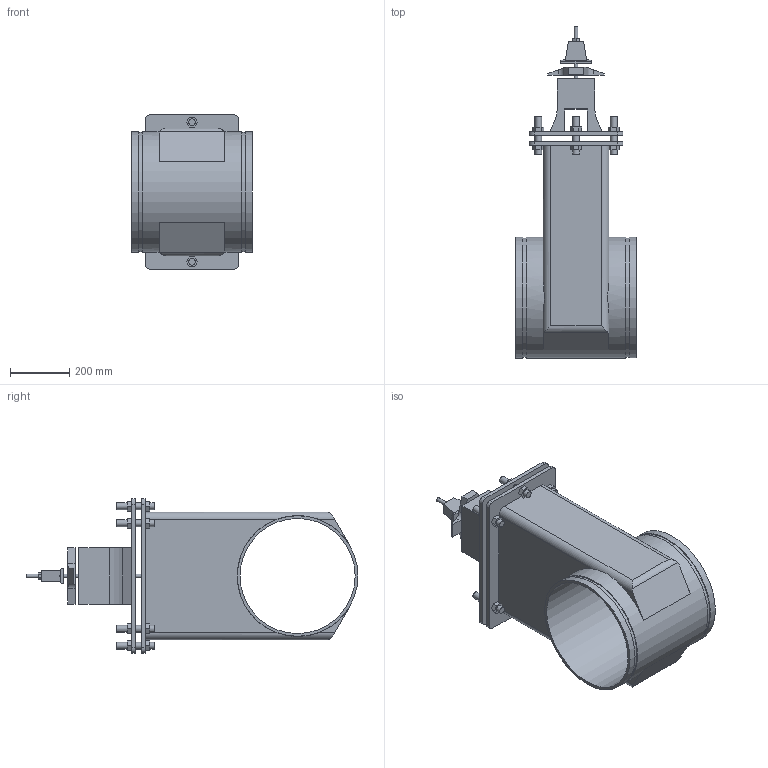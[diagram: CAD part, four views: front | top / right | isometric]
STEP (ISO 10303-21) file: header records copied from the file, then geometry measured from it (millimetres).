
FILE_DESCRIPTION(/* description */ ('VIC GATE VALVE SERIES 772H NRS','CAx-IF Rec.Pracs.---Representation and Presentation of Product Manufacturing Information (PMI)---4.0---2014-10-13'),/* implementation_level */ '2;1');
FILE_NAME(/* name */ 'C:\Users\Vjadhav\AppData\Roaming\Autodesk\ApplicationPlugins\Back Up\Victaulic_FP-FireLock_Valve Gate NRS_Series 772H (OGS)\Victaulic_FP-FireLock_Valve Gate NRS_Series 772H (OGS)_16 (400).stp',/* time_stamp */ '2020-07-20T15:49:49+05:00',/* author */ ('kkamble'),/* organization */ ('Victaulic'),/* preprocessor_version */ 'ST-DEVELOPER v17.2',/* originating_system */ 'Autodesk Inventor 2019',/* authorisation */ '');
FILE_SCHEMA (('AP242_MANAGED_MODEL_BASED_3D_ENGINEERING_MIM_LF { 1 0 10303 442 1 1 4 }'));
Length unit declared in the file: inch
Products named in the file (1): 772H-16.0
Bounding box: 406.4 x 1117.6 x 519.94 mm (x, y, z)
Volume: 49170397.4 mm3; surface area: 2330759.3 mm2
Topology: 1 solids, 1 shells, 217 faces, 551 edges, 371 vertices
Faces by surface type: plane 168, cylinder 49
Full cylindrical faces by diameter (mm): 12.7 x4, 22.86 x18, 387.35 x1, 400.837 x2, 406.4 x3
Entity records: 6989 total; most frequent: CARTESIAN_POINT 1225, DIRECTION 1126, ORIENTED_EDGE 1102, EDGE_CURVE 551, LINE 430, VECTOR 430, VERTEX_POINT 371, AXIS2_PLACEMENT_3D 348
